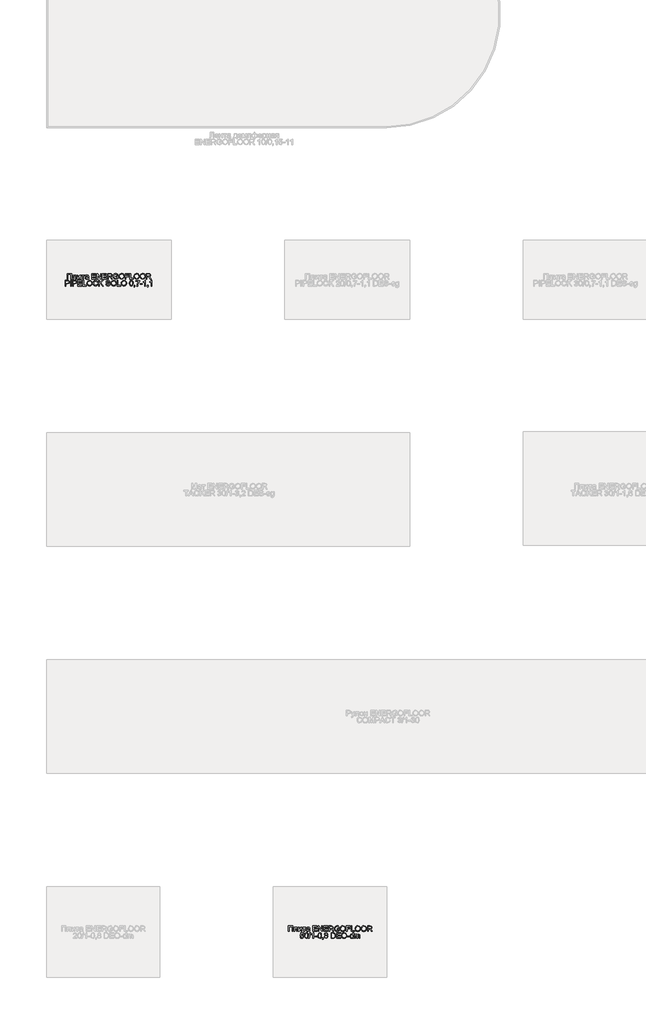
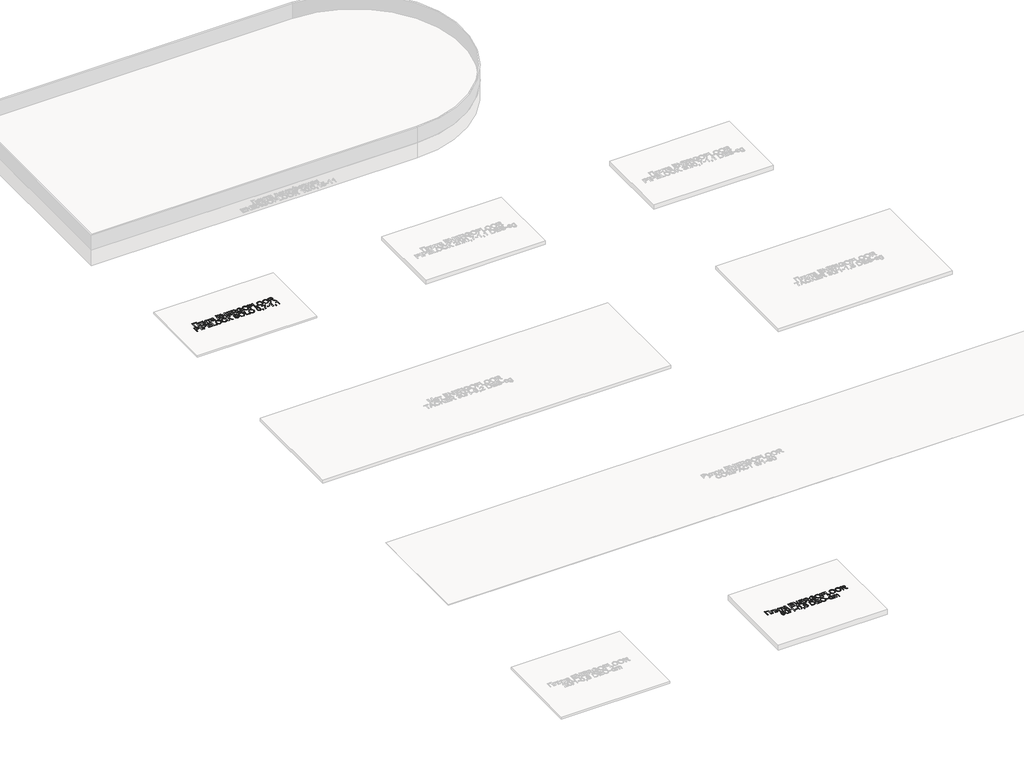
# One storey, part 2 of 7: 2 proxies.
"""IFC4 building model written with IfcOpenShell, lengths in millimetres."""

from ifc_helpers import new_model, si_unit, origin, origin_with_axes, place, context, project, spatial, polyline, outline, extrude, element, save

model = new_model("IFC4")

# Units and contexts
model_context = context("Model", 3, world=origin())
ifc_project = project(units=[si_unit("LENGTHUNIT", "METRE", prefix="MILLI")], contexts=[model_context])

# Site, building, storey
site = spatial("IfcSite", under=ifc_project)
building = spatial("IfcBuilding", under=site)
storey = spatial("IfcBuildingStorey", under=building, Name="Уровень 1", Elevation=0.0)

# Proxies
placement = place(None, origin())
element("IfcBuildingElementProxy", 1, Name="Текст модели ROLS ISOMARKET", ObjectType="Текст модели ROLS ISOMARKET", at=placement, inside=storey, context=model_context, shape_type="SweptSolid", body=[
    extrude(outline(polyline([(-16933.1193871, 11506.776011), (-16894.6578487, 11506.776011), (-16894.6578487, 11457.5452418), (-16900.8116948, 11457.5452418), (-16900.8116948, 11500.6221648), (-16926.965541, 11500.6221648), (-16926.965541, 11457.5452418), (-16933.1193871, 11457.5452418), (-16933.1193871, 11506.776011)])), origin_with_axes(), (0.0, 0.0, 1.0), 2.0),
    extrude(outline(polyline([(-16881.5809256, 11493.6990879), (-16853.8886179, 11493.6990879), (-16853.8886179, 11457.5812994), (-16860.0424641, 11457.5812994), (-16860.0424641, 11487.5452418), (-16875.4270794, 11487.5452418), (-16875.4270794, 11470.2976456), (-16875.8417429, 11462.3409148), (-16878.1193871, 11458.9815398), (-16883.5040025, 11457.5452418), (-16888.5040025, 11457.8577418), (-16888.5040025, 11463.6990879), (-16885.7515987, 11463.6990879), (-16882.9691468, 11464.0776937), (-16881.8573679, 11465.2796168), (-16881.5809256, 11470.6462033), (-16881.5809256, 11493.6990879)])), origin_with_axes(), (0.0, 0.0, 1.0), 2.0),
    extrude(outline(polyline([(-16844.6578487, 11493.6990879), (-16838.5040025, 11493.6990879), (-16838.5040025, 11466.1269725), (-16823.3838102, 11493.6990879), (-16815.4270794, 11493.6990879), (-16815.4270794, 11457.5452418), (-16821.5809256, 11457.5452418), (-16821.5809256, 11484.9490879), (-16836.6049641, 11457.5452418), (-16844.6578487, 11457.5452418), (-16844.6578487, 11493.6990879)])), origin_with_axes(), (0.0, 0.0, 1.0), 2.0),
    extrude(outline(polyline([(-16809.2732333, 11493.6990879), (-16780.0424641, 11493.6990879), (-16780.0424641, 11487.5452418), (-16791.5809256, 11487.5452418), (-16791.5809256, 11457.5452418), (-16797.7347718, 11457.5452418), (-16797.7347718, 11487.5452418), (-16809.2732333, 11487.5452418), (-16809.2732333, 11493.6990879)])), origin_with_axes(), (0.0, 0.0, 1.0), 2.0),
    extrude(outline(polyline([(-16751.5809256, 11462.1606264), (-16757.5484737, 11457.9899533), (-16764.1410218, 11456.776011), (-16773.0773198, 11459.6966841), (-16776.1963102, 11467.1606264), (-16775.0184256, 11472.0284148), (-16771.9234737, 11475.5620687), (-16767.6145794, 11477.5812994), (-16762.2900602, 11478.5067802), (-16751.6169833, 11480.6221648), (-16753.2756371, 11486.5356264), (-16760.0785218, 11488.3144725), (-16766.3044833, 11487.1305783), (-16769.2732333, 11482.9298571), (-16775.4270794, 11483.6990879), (-16772.7648198, 11489.7087033), (-16767.4042429, 11493.2303379), (-16759.2852525, 11494.4683187), (-16751.8273198, 11493.3745687), (-16747.6145794, 11490.6281744), (-16745.7275602, 11486.4514918), (-16745.4270794, 11481.0668764), (-16745.4270794, 11473.4106264), (-16745.1145794, 11462.7195206), (-16743.8886179, 11457.5452418), (-16750.0424641, 11457.5452418), (-16751.5809256, 11462.1606264)]), holes=[polyline([(-16751.5809256, 11474.4683187), (-16761.5088102, 11472.5812994), (-16766.8032814, 11471.5837033), (-16769.2011179, 11469.9611071), (-16770.0424641, 11467.5933187), (-16768.2095314, 11464.2639918), (-16762.8309256, 11462.9298571), (-16756.6049641, 11464.4022129), (-16752.590541, 11467.9659148), (-16751.6169833, 11472.7255302), (-16751.5809256, 11474.4683187)])]), origin_with_axes(), (0.0, 0.0, 1.0), 2.0),
    extrude(outline(polyline([(-16716.965541, 11457.5452418), (-16716.965541, 11506.776011), (-16681.5809256, 11506.776011), (-16681.5809256, 11500.6221648), (-16710.8116948, 11500.6221648), (-16710.8116948, 11486.0067802), (-16683.1193871, 11486.0067802), (-16683.1193871, 11479.8529341), (-16710.8116948, 11479.8529341), (-16710.8116948, 11463.6990879), (-16680.8116948, 11463.6990879), (-16680.8116948, 11457.5452418), (-16716.965541, 11457.5452418)])), origin_with_axes(), (0.0, 0.0, 1.0), 2.0),
    extrude(outline(polyline([(-16671.5809256, 11457.5452418), (-16671.5809256, 11506.776011), (-16664.9943871, 11506.776011), (-16639.2732333, 11467.7736071), (-16639.2732333, 11506.776011), (-16633.1193871, 11506.776011), (-16633.1193871, 11457.5452418), (-16639.7059256, 11457.5452418), (-16665.4270794, 11496.5596648), (-16665.4270794, 11457.5452418), (-16671.5809256, 11457.5452418)])), origin_with_axes(), (0.0, 0.0, 1.0), 2.0),
    extrude(outline(polyline([(-16622.3501564, 11457.5452418), (-16622.3501564, 11506.776011), (-16586.965541, 11506.776011), (-16586.965541, 11500.6221648), (-16616.1963102, 11500.6221648), (-16616.1963102, 11486.0067802), (-16588.5040025, 11486.0067802), (-16588.5040025, 11479.8529341), (-16616.1963102, 11479.8529341), (-16616.1963102, 11463.6990879), (-16586.1963102, 11463.6990879), (-16586.1963102, 11457.5452418), (-16622.3501564, 11457.5452418)])), origin_with_axes(), (0.0, 0.0, 1.0), 2.0),
    extrude(outline(polyline([(-16576.965541, 11457.5452418), (-16576.965541, 11506.776011), (-16555.7515987, 11506.776011), (-16545.9018391, 11505.447886), (-16540.5172237, 11500.7483668), (-16538.5040025, 11493.3024533), (-16541.8393391, 11484.432261), (-16552.1458294, 11479.8529341), (-16548.6482333, 11477.2207225), (-16543.6602525, 11470.8865879), (-16535.4511179, 11457.5452418), (-16542.6025602, 11457.5452418), (-16549.0088102, 11467.7495687), (-16553.6362141, 11474.5043764), (-16556.887416, 11477.6954821), (-16559.8140987, 11478.8673571), (-16563.3838102, 11479.0837033), (-16570.8116948, 11479.0837033), (-16570.8116948, 11457.5452418), (-16576.965541, 11457.5452418)]), holes=[polyline([(-16570.8116948, 11485.2375494), (-16557.0376564, 11485.2375494), (-16550.012416, 11486.1089437), (-16546.0220314, 11488.8974052), (-16544.6578487, 11493.0740879), (-16547.2600121, 11498.494761), (-16555.4871756, 11500.6221648), (-16570.8116948, 11500.6221648), (-16570.8116948, 11485.2375494)])]), origin_with_axes(), (0.0, 0.0, 1.0), 2.0),
    extrude(outline(polyline([(-16504.6578487, 11476.776011), (-16504.6578487, 11482.9298571), (-16484.6578487, 11482.9298571), (-16484.6578487, 11464.5284148), (-16494.5316468, 11458.7231264), (-16504.9703487, 11456.776011), (-16518.1133775, 11459.8709629), (-16527.0316468, 11468.8312994), (-16530.0424641, 11481.9202418), (-16527.043666, 11495.3036552), (-16518.4198679, 11504.5284148), (-16505.4631371, 11507.5452418), (-16495.8357333, 11505.7964437), (-16489.0869352, 11500.9286552), (-16485.3669833, 11492.7856264), (-16491.0400602, 11491.1870687), (-16493.8465506, 11496.8781744), (-16498.6422237, 11500.1594244), (-16505.559291, 11501.3913956), (-16513.4378968, 11500.0632706), (-16518.7984737, 11496.5776937), (-16521.965541, 11491.8361071), (-16523.8886179, 11482.1726456), (-16521.574916, 11471.4454821), (-16514.8441468, 11465.0272129), (-16505.4631371, 11462.9298571), (-16497.043666, 11464.510386), (-16490.8116948, 11467.8817802), (-16490.8116948, 11476.776011), (-16504.6578487, 11476.776011)])), origin_with_axes(), (0.0, 0.0, 1.0), 2.0),
    extrude(outline(polyline([(-16476.965541, 11481.5115879), (-16475.324916, 11492.3980062), (-16470.403041, 11500.6341841), (-16462.8880169, 11505.8174773), (-16453.4679448, 11507.5452418), (-16441.2203487, 11504.3000494), (-16432.903041, 11495.2495687), (-16430.0424641, 11482.0764918), (-16433.0532814, 11468.7231264), (-16441.5869352, 11459.8048571), (-16453.5040025, 11456.776011), (-16465.8838102, 11460.1233668), (-16474.153041, 11469.2579821), (-16476.965541, 11481.5115879)]), holes=[polyline([(-16470.8116948, 11481.4514918), (-16465.8898198, 11467.8817802), (-16453.5400602, 11462.9298571), (-16441.0821275, 11467.9298571), (-16436.1963102, 11482.1245687), (-16438.2876564, 11492.2808187), (-16444.3994352, 11499.0055783), (-16453.4318871, 11501.3913956), (-16465.6794833, 11496.7940398), (-16469.5286419, 11490.6597249), (-16470.8116948, 11481.4514918)])]), origin_with_axes(), (0.0, 0.0, 1.0), 2.0),
    extrude(outline(polyline([(-16421.5809256, 11457.5452418), (-16421.5809256, 11506.776011), (-16388.5040025, 11506.776011), (-16388.5040025, 11500.6221648), (-16415.4270794, 11500.6221648), (-16415.4270794, 11486.0067802), (-16392.3501564, 11486.0067802), (-16392.3501564, 11479.8529341), (-16415.4270794, 11479.8529341), (-16415.4270794, 11457.5452418), (-16421.5809256, 11457.5452418)])), origin_with_axes(), (0.0, 0.0, 1.0), 2.0),
    extrude(outline(polyline([(-16380.0424641, 11457.5452418), (-16380.0424641, 11506.776011), (-16373.8886179, 11506.776011), (-16373.8886179, 11463.6990879), (-16349.2732333, 11463.6990879), (-16349.2732333, 11457.5452418), (-16380.0424641, 11457.5452418)])), origin_with_axes(), (0.0, 0.0, 1.0), 2.0),
    extrude(outline(polyline([(-16344.6578487, 11481.5115879), (-16343.0172237, 11492.3980062), (-16338.0953487, 11500.6341841), (-16330.5803246, 11505.8174773), (-16321.1602525, 11507.5452418), (-16308.9126564, 11504.3000494), (-16300.5953487, 11495.2495687), (-16297.7347718, 11482.0764918), (-16300.7455891, 11468.7231264), (-16309.2792429, 11459.8048571), (-16321.1963102, 11456.776011), (-16333.5761179, 11460.1233668), (-16341.8453487, 11469.2579821), (-16344.6578487, 11481.5115879)]), holes=[polyline([(-16338.5040025, 11481.4514918), (-16333.5821275, 11467.8817802), (-16321.2323679, 11462.9298571), (-16308.7744352, 11467.9298571), (-16303.8886179, 11482.1245687), (-16305.9799641, 11492.2808187), (-16312.0917429, 11499.0055783), (-16321.1241948, 11501.3913956), (-16333.371791, 11496.7940398), (-16337.2209496, 11490.6597249), (-16338.5040025, 11481.4514918)])]), origin_with_axes(), (0.0, 0.0, 1.0), 2.0),
    extrude(outline(polyline([(-16291.5809256, 11481.5115879), (-16289.9403006, 11492.3980062), (-16285.0184256, 11500.6341841), (-16277.5034016, 11505.8174773), (-16268.0833294, 11507.5452418), (-16255.8357333, 11504.3000494), (-16247.5184256, 11495.2495687), (-16244.6578487, 11482.0764918), (-16247.668666, 11468.7231264), (-16256.2023198, 11459.8048571), (-16268.1193871, 11456.776011), (-16280.4991948, 11460.1233668), (-16288.7684256, 11469.2579821), (-16291.5809256, 11481.5115879)]), holes=[polyline([(-16285.4270794, 11481.4514918), (-16280.5052044, 11467.8817802), (-16268.1554448, 11462.9298571), (-16255.6975121, 11467.9298571), (-16250.8116948, 11482.1245687), (-16252.903041, 11492.2808187), (-16259.0148198, 11499.0055783), (-16268.0472718, 11501.3913956), (-16280.2948679, 11496.7940398), (-16284.1440266, 11490.6597249), (-16285.4270794, 11481.4514918)])]), origin_with_axes(), (0.0, 0.0, 1.0), 2.0),
    extrude(outline(polyline([(-16236.1963102, 11457.5452418), (-16236.1963102, 11506.776011), (-16214.9823679, 11506.776011), (-16205.1326083, 11505.447886), (-16199.7479929, 11500.7483668), (-16197.7347718, 11493.3024533), (-16201.0701083, 11484.432261), (-16211.3765987, 11479.8529341), (-16207.8790025, 11477.2207225), (-16202.8910218, 11470.8865879), (-16194.6818871, 11457.5452418), (-16201.8333294, 11457.5452418), (-16208.2395794, 11467.7495687), (-16212.8669833, 11474.5043764), (-16216.1181852, 11477.6954821), (-16219.0448679, 11478.8673571), (-16222.6145794, 11479.0837033), (-16230.0424641, 11479.0837033), (-16230.0424641, 11457.5452418), (-16236.1963102, 11457.5452418)]), holes=[polyline([(-16230.0424641, 11485.2375494), (-16216.2684256, 11485.2375494), (-16209.2431852, 11486.1089437), (-16205.2528006, 11488.8974052), (-16203.8886179, 11493.0740879), (-16206.4907814, 11498.494761), (-16214.7179448, 11500.6221648), (-16230.0424641, 11500.6221648), (-16230.0424641, 11485.2375494)])]), origin_with_axes(), (0.0, 0.0, 1.0), 2.0),
    extrude(outline(polyline([(-16950.4270794, 11396.776011), (-16950.4270794, 11446.0067802), (-16932.1818871, 11446.0067802), (-16924.8261179, 11445.5380302), (-16918.8465506, 11443.2363475), (-16914.9703487, 11438.4767321), (-16913.5040025, 11431.7639918), (-16917.4643391, 11421.1269725), (-16931.7612141, 11416.776011), (-16944.2732333, 11416.776011), (-16944.2732333, 11396.776011), (-16950.4270794, 11396.776011)]), holes=[polyline([(-16944.2732333, 11422.9298571), (-16931.4006371, 11422.9298571), (-16922.3381371, 11425.1894725), (-16919.6578487, 11431.5476456), (-16921.2383775, 11436.6437994), (-16925.3910218, 11439.432261), (-16931.5448679, 11439.8529341), (-16944.2732333, 11439.8529341), (-16944.2732333, 11422.9298571)])]), origin_with_axes(), (0.0, 0.0, 1.0), 2.0),
    extrude(outline(polyline([(-16904.2732333, 11396.776011), (-16904.2732333, 11446.0067802), (-16898.1193871, 11446.0067802), (-16898.1193871, 11396.776011), (-16904.2732333, 11396.776011)])), origin_with_axes(), (0.0, 0.0, 1.0), 2.0),
    extrude(outline(polyline([(-16885.8116948, 11396.776011), (-16885.8116948, 11446.0067802), (-16867.5665025, 11446.0067802), (-16860.2107333, 11445.5380302), (-16854.231166, 11443.2363475), (-16850.3549641, 11438.4767321), (-16848.8886179, 11431.7639918), (-16852.8489544, 11421.1269725), (-16867.1458294, 11416.776011), (-16879.6578487, 11416.776011), (-16879.6578487, 11396.776011), (-16885.8116948, 11396.776011)]), holes=[polyline([(-16879.6578487, 11422.9298571), (-16866.7852525, 11422.9298571), (-16857.7227525, 11425.1894725), (-16855.0424641, 11431.5476456), (-16856.6229929, 11436.6437994), (-16860.7756371, 11439.432261), (-16866.9294833, 11439.8529341), (-16879.6578487, 11439.8529341), (-16879.6578487, 11422.9298571)])]), origin_with_axes(), (0.0, 0.0, 1.0), 2.0),
    extrude(outline(polyline([(-16840.4270794, 11396.776011), (-16840.4270794, 11446.0067802), (-16805.0424641, 11446.0067802), (-16805.0424641, 11439.8529341), (-16834.2732333, 11439.8529341), (-16834.2732333, 11425.2375494), (-16806.5809256, 11425.2375494), (-16806.5809256, 11419.0837033), (-16834.2732333, 11419.0837033), (-16834.2732333, 11402.9298571), (-16804.2732333, 11402.9298571), (-16804.2732333, 11396.776011), (-16840.4270794, 11396.776011)])), origin_with_axes(), (0.0, 0.0, 1.0), 2.0),
    extrude(outline(polyline([(-16795.0424641, 11396.776011), (-16795.0424641, 11446.0067802), (-16788.8886179, 11446.0067802), (-16788.8886179, 11402.9298571), (-16764.2732333, 11402.9298571), (-16764.2732333, 11396.776011), (-16795.0424641, 11396.776011)])), origin_with_axes(), (0.0, 0.0, 1.0), 2.0),
    extrude(outline(polyline([(-16759.6578487, 11420.7423571), (-16758.0172237, 11431.6287754), (-16753.0953487, 11439.8649533), (-16745.5803246, 11445.0482466), (-16736.1602525, 11446.776011), (-16723.9126564, 11443.5308187), (-16715.5953487, 11434.4803379), (-16712.7347718, 11421.307261), (-16715.7455891, 11407.9538956), (-16724.2792429, 11399.0356264), (-16736.1963102, 11396.0067802), (-16748.5761179, 11399.354136), (-16756.8453487, 11408.4887514), (-16759.6578487, 11420.7423571)]), holes=[polyline([(-16753.5040025, 11420.682261), (-16748.5821275, 11407.1125494), (-16736.2323679, 11402.1606264), (-16723.7744352, 11407.1606264), (-16718.8886179, 11421.3553379), (-16720.9799641, 11431.5115879), (-16727.0917429, 11438.2363475), (-16736.1241948, 11440.6221648), (-16748.371791, 11436.0248091), (-16752.2209496, 11429.8904942), (-16753.5040025, 11420.682261)])]), origin_with_axes(), (0.0, 0.0, 1.0), 2.0),
    extrude(outline(polyline([(-16669.6578487, 11414.276011), (-16663.5040025, 11412.6894725), (-16670.7996756, 11400.2796168), (-16683.684291, 11396.0067802), (-16696.4907814, 11399.2399533), (-16704.0028006, 11408.6029341), (-16706.5809256, 11421.7639918), (-16703.6662621, 11435.1413956), (-16695.3790025, 11443.8132706), (-16683.5520794, 11446.776011), (-16671.2263583, 11442.9418764), (-16664.2732333, 11432.1486071), (-16670.4270794, 11430.682261), (-16675.4751564, 11438.2483668), (-16683.7924641, 11440.6221648), (-16693.4198679, 11437.9899533), (-16698.8585698, 11430.9226456), (-16700.4270794, 11421.776011), (-16698.5701083, 11411.1750494), (-16692.7888583, 11404.4022129), (-16684.2972718, 11402.1606264), (-16674.8802044, 11405.213511), (-16669.6578487, 11414.276011)])), origin_with_axes(), (0.0, 0.0, 1.0), 2.0),
    extrude(outline(polyline([(-16655.0424641, 11396.776011), (-16655.0424641, 11446.0067802), (-16648.8886179, 11446.0067802), (-16648.8886179, 11421.9082225), (-16623.6482333, 11446.0067802), (-16615.0424641, 11446.0067802), (-16636.2323679, 11425.7663956), (-16614.2732333, 11396.776011), (-16621.7972718, 11396.776011), (-16640.5953487, 11421.6077418), (-16648.8886179, 11413.6990879), (-16648.8886179, 11396.776011), (-16655.0424641, 11396.776011)])), origin_with_axes(), (0.0, 0.0, 1.0), 2.0),
    extrude(outline(polyline([(-16592.7347718, 11413.6990879), (-16586.5809256, 11413.6990879), (-16584.5977525, 11407.5392321), (-16579.7540025, 11403.6450014), (-16572.3741948, 11402.1606264), (-16565.9439064, 11403.2844244), (-16561.7912621, 11406.3733668), (-16560.4270794, 11410.5019725), (-16561.4487141, 11414.3421168), (-16565.6314064, 11417.1365879), (-16574.5917429, 11419.4863475), (-16584.2371756, 11422.5212033), (-16589.4715506, 11427.1005302), (-16591.1963102, 11433.2183187), (-16589.0628968, 11440.1834629), (-16582.8309256, 11445.0993283), (-16573.7083294, 11446.776011), (-16563.9727525, 11445.0212033), (-16557.4823679, 11439.8649533), (-16555.0424641, 11432.1606264), (-16561.1963102, 11432.1606264), (-16564.6818871, 11438.4827418), (-16573.4679448, 11440.6221648), (-16582.278041, 11438.5067802), (-16585.0424641, 11433.3986071), (-16583.0833294, 11429.1317802), (-16573.0352525, 11425.6942802), (-16562.1458294, 11422.6053379), (-16556.1903006, 11417.6173571), (-16554.2732333, 11410.6582225), (-16556.4787621, 11403.2964437), (-16562.824916, 11397.9238475), (-16572.1338102, 11396.0067802), (-16583.1253968, 11398.0740879), (-16590.0785218, 11404.3000494), (-16592.7347718, 11413.6990879)])), origin_with_axes(), (0.0, 0.0, 1.0), 2.0),
    extrude(outline(polyline([(-16547.3501564, 11420.7423571), (-16545.7095314, 11431.6287754), (-16540.7876564, 11439.8649533), (-16533.2726323, 11445.0482466), (-16523.8525602, 11446.776011), (-16511.6049641, 11443.5308187), (-16503.2876564, 11434.4803379), (-16500.4270794, 11421.307261), (-16503.4378968, 11407.9538956), (-16511.9715506, 11399.0356264), (-16523.8886179, 11396.0067802), (-16536.2684256, 11399.354136), (-16544.5376564, 11408.4887514), (-16547.3501564, 11420.7423571)]), holes=[polyline([(-16541.1963102, 11420.682261), (-16536.2744352, 11407.1125494), (-16523.9246756, 11402.1606264), (-16511.4667429, 11407.1606264), (-16506.5809256, 11421.3553379), (-16508.6722718, 11431.5115879), (-16514.7840506, 11438.2363475), (-16523.8165025, 11440.6221648), (-16536.0640987, 11436.0248091), (-16539.9132573, 11429.8904942), (-16541.1963102, 11420.682261)])]), origin_with_axes(), (0.0, 0.0, 1.0), 2.0),
    extrude(outline(polyline([(-16491.965541, 11396.776011), (-16491.965541, 11446.0067802), (-16485.8116948, 11446.0067802), (-16485.8116948, 11402.9298571), (-16461.1963102, 11402.9298571), (-16461.1963102, 11396.776011), (-16491.965541, 11396.776011)])), origin_with_axes(), (0.0, 0.0, 1.0), 2.0),
    extrude(outline(polyline([(-16456.5809256, 11420.7423571), (-16454.9403006, 11431.6287754), (-16450.0184256, 11439.8649533), (-16442.5034016, 11445.0482466), (-16433.0833294, 11446.776011), (-16420.8357333, 11443.5308187), (-16412.5184256, 11434.4803379), (-16409.6578487, 11421.307261), (-16412.668666, 11407.9538956), (-16421.2023198, 11399.0356264), (-16433.1193871, 11396.0067802), (-16445.4991948, 11399.354136), (-16453.7684256, 11408.4887514), (-16456.5809256, 11420.7423571)]), holes=[polyline([(-16450.4270794, 11420.682261), (-16445.5052044, 11407.1125494), (-16433.1554448, 11402.1606264), (-16420.6975121, 11407.1606264), (-16415.8116948, 11421.3553379), (-16417.903041, 11431.5115879), (-16424.0148198, 11438.2363475), (-16433.0472718, 11440.6221648), (-16445.2948679, 11436.0248091), (-16449.1440266, 11429.8904942), (-16450.4270794, 11420.682261)])]), origin_with_axes(), (0.0, 0.0, 1.0), 2.0),
    extrude(outline(polyline([(-16384.2732333, 11420.994761), (-16382.4643391, 11435.1594244), (-16377.0917429, 11443.3264918), (-16368.1193871, 11446.0067802), (-16360.9318871, 11444.4202418), (-16355.9679448, 11439.8469244), (-16353.0833294, 11432.5632706), (-16351.965541, 11420.994761), (-16353.7564064, 11406.8901937), (-16359.1109737, 11398.7050975), (-16368.1193871, 11396.0067802), (-16379.3693871, 11400.6942802), (-16383.0472718, 11409.0206023), (-16384.2732333, 11420.994761)]), holes=[polyline([(-16378.1193871, 11421.0067802), (-16375.2347718, 11405.7243283), (-16368.1193871, 11402.1606264), (-16361.0040025, 11405.7363475), (-16358.1193871, 11421.0067802), (-16360.9078487, 11436.1149533), (-16368.1915025, 11439.8529341), (-16375.1386179, 11436.5596648), (-16378.1193871, 11421.0067802)])]), origin_with_axes(), (0.0, 0.0, 1.0), 2.0),
    extrude(outline(polyline([(-16343.5040025, 11396.776011), (-16343.5040025, 11402.9298571), (-16337.3501564, 11402.9298571), (-16337.3501564, 11396.776011), (-16338.4559256, 11390.4839437), (-16341.965541, 11386.776011), (-16343.5040025, 11389.0837033), (-16341.2443871, 11391.7399533), (-16340.4390987, 11396.776011), (-16343.5040025, 11396.776011)])), origin_with_axes(), (0.0, 0.0, 1.0), 2.0),
    extrude(outline(polyline([(-16327.3501564, 11439.0837033), (-16327.3501564, 11445.2375494), (-16295.0424641, 11445.2375494), (-16295.0424641, 11440.2615879), (-16304.2071275, 11427.0224052), (-16311.2203487, 11410.1534148), (-16313.5040025, 11396.776011), (-16319.6578487, 11396.776011), (-16317.2119352, 11410.6582225), (-16310.4991948, 11426.3493283), (-16301.1963102, 11439.0837033), (-16327.3501564, 11439.0837033)])), origin_with_axes(), (0.0, 0.0, 1.0), 2.0),
    extrude(outline(polyline([(-16291.1963102, 11411.3913956), (-16291.1963102, 11417.5452418), (-16271.965541, 11417.5452418), (-16271.965541, 11411.3913956), (-16291.1963102, 11411.3913956)])), origin_with_axes(), (0.0, 0.0, 1.0), 2.0),
    extrude(outline(polyline([(-16243.5040025, 11396.776011), (-16249.6578487, 11396.776011), (-16249.6578487, 11435.1413956), (-16255.4871756, 11430.9887514), (-16261.965541, 11427.8817802), (-16261.965541, 11433.6990879), (-16252.9451083, 11439.4562994), (-16247.4703487, 11446.0067802), (-16243.5040025, 11446.0067802), (-16243.5040025, 11396.776011)])), origin_with_axes(), (0.0, 0.0, 1.0), 2.0),
    extrude(outline(polyline([(-16225.8116948, 11396.776011), (-16225.8116948, 11402.9298571), (-16219.6578487, 11402.9298571), (-16219.6578487, 11396.776011), (-16220.7636179, 11390.4839437), (-16224.2732333, 11386.776011), (-16225.8116948, 11389.0837033), (-16223.5520794, 11391.7399533), (-16222.746791, 11396.776011), (-16225.8116948, 11396.776011)])), origin_with_axes(), (0.0, 0.0, 1.0), 2.0),
    extrude(outline(polyline([(-16186.5809256, 11396.776011), (-16192.7347718, 11396.776011), (-16192.7347718, 11435.1413956), (-16198.5640987, 11430.9887514), (-16205.0424641, 11427.8817802), (-16205.0424641, 11433.6990879), (-16196.0220314, 11439.4562994), (-16190.5472718, 11446.0067802), (-16186.5809256, 11446.0067802), (-16186.5809256, 11396.776011)])), origin_with_axes(), (0.0, 0.0, 1.0), 2.0),
])
element("IfcBuildingElementProxy", 2, Name="Текст модели ROLS ISOMARKET", ObjectType="Текст модели ROLS ISOMARKET", at=placement, inside=storey, context=model_context, shape_type="SweptSolid", body=[
    extrude(outline(polyline([(-14983.1193871, 5756.776011), (-14944.6578487, 5756.776011), (-14944.6578487, 5707.5452418), (-14950.8116948, 5707.5452418), (-14950.8116948, 5750.6221648), (-14976.965541, 5750.6221648), (-14976.965541, 5707.5452418), (-14983.1193871, 5707.5452418), (-14983.1193871, 5756.776011)])), origin_with_axes(), (0.0, 0.0, 1.0), 2.0),
    extrude(outline(polyline([(-14931.5809256, 5743.6990879), (-14903.8886179, 5743.6990879), (-14903.8886179, 5707.5812994), (-14910.0424641, 5707.5812994), (-14910.0424641, 5737.5452418), (-14925.4270794, 5737.5452418), (-14925.4270794, 5720.2976456), (-14925.8417429, 5712.3409148), (-14928.1193871, 5708.9815398), (-14933.5040025, 5707.5452418), (-14938.5040025, 5707.8577418), (-14938.5040025, 5713.6990879), (-14935.7515987, 5713.6990879), (-14932.9691468, 5714.0776937), (-14931.8573679, 5715.2796168), (-14931.5809256, 5720.6462033), (-14931.5809256, 5743.6990879)])), origin_with_axes(), (0.0, 0.0, 1.0), 2.0),
    extrude(outline(polyline([(-14894.6578487, 5743.6990879), (-14888.5040025, 5743.6990879), (-14888.5040025, 5716.1269725), (-14873.3838102, 5743.6990879), (-14865.4270794, 5743.6990879), (-14865.4270794, 5707.5452418), (-14871.5809256, 5707.5452418), (-14871.5809256, 5734.9490879), (-14886.6049641, 5707.5452418), (-14894.6578487, 5707.5452418), (-14894.6578487, 5743.6990879)])), origin_with_axes(), (0.0, 0.0, 1.0), 2.0),
    extrude(outline(polyline([(-14859.2732333, 5743.6990879), (-14830.0424641, 5743.6990879), (-14830.0424641, 5737.5452418), (-14841.5809256, 5737.5452418), (-14841.5809256, 5707.5452418), (-14847.7347718, 5707.5452418), (-14847.7347718, 5737.5452418), (-14859.2732333, 5737.5452418), (-14859.2732333, 5743.6990879)])), origin_with_axes(), (0.0, 0.0, 1.0), 2.0),
    extrude(outline(polyline([(-14801.5809256, 5712.1606264), (-14807.5484737, 5707.9899533), (-14814.1410218, 5706.776011), (-14823.0773198, 5709.6966841), (-14826.1963102, 5717.1606264), (-14825.0184256, 5722.0284148), (-14821.9234737, 5725.5620687), (-14817.6145794, 5727.5812994), (-14812.2900602, 5728.5067802), (-14801.6169833, 5730.6221648), (-14803.2756371, 5736.5356264), (-14810.0785218, 5738.3144725), (-14816.3044833, 5737.1305783), (-14819.2732333, 5732.9298571), (-14825.4270794, 5733.6990879), (-14822.7648198, 5739.7087033), (-14817.4042429, 5743.2303379), (-14809.2852525, 5744.4683187), (-14801.8273198, 5743.3745687), (-14797.6145794, 5740.6281744), (-14795.7275602, 5736.4514918), (-14795.4270794, 5731.0668764), (-14795.4270794, 5723.4106264), (-14795.1145794, 5712.7195206), (-14793.8886179, 5707.5452418), (-14800.0424641, 5707.5452418), (-14801.5809256, 5712.1606264)]), holes=[polyline([(-14801.5809256, 5724.4683187), (-14811.5088102, 5722.5812994), (-14816.8032814, 5721.5837033), (-14819.2011179, 5719.9611071), (-14820.0424641, 5717.5933187), (-14818.2095314, 5714.2639918), (-14812.8309256, 5712.9298571), (-14806.6049641, 5714.4022129), (-14802.590541, 5717.9659148), (-14801.6169833, 5722.7255302), (-14801.5809256, 5724.4683187)])]), origin_with_axes(), (0.0, 0.0, 1.0), 2.0),
    extrude(outline(polyline([(-14766.965541, 5707.5452418), (-14766.965541, 5756.776011), (-14731.5809256, 5756.776011), (-14731.5809256, 5750.6221648), (-14760.8116948, 5750.6221648), (-14760.8116948, 5736.0067802), (-14733.1193871, 5736.0067802), (-14733.1193871, 5729.8529341), (-14760.8116948, 5729.8529341), (-14760.8116948, 5713.6990879), (-14730.8116948, 5713.6990879), (-14730.8116948, 5707.5452418), (-14766.965541, 5707.5452418)])), origin_with_axes(), (0.0, 0.0, 1.0), 2.0),
    extrude(outline(polyline([(-14721.5809256, 5707.5452418), (-14721.5809256, 5756.776011), (-14714.9943871, 5756.776011), (-14689.2732333, 5717.7736071), (-14689.2732333, 5756.776011), (-14683.1193871, 5756.776011), (-14683.1193871, 5707.5452418), (-14689.7059256, 5707.5452418), (-14715.4270794, 5746.5596648), (-14715.4270794, 5707.5452418), (-14721.5809256, 5707.5452418)])), origin_with_axes(), (0.0, 0.0, 1.0), 2.0),
    extrude(outline(polyline([(-14672.3501564, 5707.5452418), (-14672.3501564, 5756.776011), (-14636.965541, 5756.776011), (-14636.965541, 5750.6221648), (-14666.1963102, 5750.6221648), (-14666.1963102, 5736.0067802), (-14638.5040025, 5736.0067802), (-14638.5040025, 5729.8529341), (-14666.1963102, 5729.8529341), (-14666.1963102, 5713.6990879), (-14636.1963102, 5713.6990879), (-14636.1963102, 5707.5452418), (-14672.3501564, 5707.5452418)])), origin_with_axes(), (0.0, 0.0, 1.0), 2.0),
    extrude(outline(polyline([(-14626.965541, 5707.5452418), (-14626.965541, 5756.776011), (-14605.7515987, 5756.776011), (-14595.9018391, 5755.447886), (-14590.5172237, 5750.7483668), (-14588.5040025, 5743.3024533), (-14591.8393391, 5734.432261), (-14602.1458294, 5729.8529341), (-14598.6482333, 5727.2207225), (-14593.6602525, 5720.8865879), (-14585.4511179, 5707.5452418), (-14592.6025602, 5707.5452418), (-14599.0088102, 5717.7495687), (-14603.6362141, 5724.5043764), (-14606.887416, 5727.6954821), (-14609.8140987, 5728.8673571), (-14613.3838102, 5729.0837033), (-14620.8116948, 5729.0837033), (-14620.8116948, 5707.5452418), (-14626.965541, 5707.5452418)]), holes=[polyline([(-14620.8116948, 5735.2375494), (-14607.0376564, 5735.2375494), (-14600.012416, 5736.1089437), (-14596.0220314, 5738.8974052), (-14594.6578487, 5743.0740879), (-14597.2600121, 5748.494761), (-14605.4871756, 5750.6221648), (-14620.8116948, 5750.6221648), (-14620.8116948, 5735.2375494)])]), origin_with_axes(), (0.0, 0.0, 1.0), 2.0),
    extrude(outline(polyline([(-14554.6578487, 5726.776011), (-14554.6578487, 5732.9298571), (-14534.6578487, 5732.9298571), (-14534.6578487, 5714.5284148), (-14544.5316468, 5708.7231264), (-14554.9703487, 5706.776011), (-14568.1133775, 5709.8709629), (-14577.0316468, 5718.8312994), (-14580.0424641, 5731.9202418), (-14577.043666, 5745.3036552), (-14568.4198679, 5754.5284148), (-14555.4631371, 5757.5452418), (-14545.8357333, 5755.7964437), (-14539.0869352, 5750.9286552), (-14535.3669833, 5742.7856264), (-14541.0400602, 5741.1870687), (-14543.8465506, 5746.8781744), (-14548.6422237, 5750.1594244), (-14555.559291, 5751.3913956), (-14563.4378968, 5750.0632706), (-14568.7984737, 5746.5776937), (-14571.965541, 5741.8361071), (-14573.8886179, 5732.1726456), (-14571.574916, 5721.4454821), (-14564.8441468, 5715.0272129), (-14555.4631371, 5712.9298571), (-14547.043666, 5714.510386), (-14540.8116948, 5717.8817802), (-14540.8116948, 5726.776011), (-14554.6578487, 5726.776011)])), origin_with_axes(), (0.0, 0.0, 1.0), 2.0),
    extrude(outline(polyline([(-14526.965541, 5731.5115879), (-14525.324916, 5742.3980062), (-14520.403041, 5750.6341841), (-14512.8880169, 5755.8174773), (-14503.4679448, 5757.5452418), (-14491.2203487, 5754.3000494), (-14482.903041, 5745.2495687), (-14480.0424641, 5732.0764918), (-14483.0532814, 5718.7231264), (-14491.5869352, 5709.8048571), (-14503.5040025, 5706.776011), (-14515.8838102, 5710.1233668), (-14524.153041, 5719.2579821), (-14526.965541, 5731.5115879)]), holes=[polyline([(-14520.8116948, 5731.4514918), (-14515.8898198, 5717.8817802), (-14503.5400602, 5712.9298571), (-14491.0821275, 5717.9298571), (-14486.1963102, 5732.1245687), (-14488.2876564, 5742.2808187), (-14494.3994352, 5749.0055783), (-14503.4318871, 5751.3913956), (-14515.6794833, 5746.7940398), (-14519.5286419, 5740.6597249), (-14520.8116948, 5731.4514918)])]), origin_with_axes(), (0.0, 0.0, 1.0), 2.0),
    extrude(outline(polyline([(-14471.5809256, 5707.5452418), (-14471.5809256, 5756.776011), (-14438.5040025, 5756.776011), (-14438.5040025, 5750.6221648), (-14465.4270794, 5750.6221648), (-14465.4270794, 5736.0067802), (-14442.3501564, 5736.0067802), (-14442.3501564, 5729.8529341), (-14465.4270794, 5729.8529341), (-14465.4270794, 5707.5452418), (-14471.5809256, 5707.5452418)])), origin_with_axes(), (0.0, 0.0, 1.0), 2.0),
    extrude(outline(polyline([(-14430.0424641, 5707.5452418), (-14430.0424641, 5756.776011), (-14423.8886179, 5756.776011), (-14423.8886179, 5713.6990879), (-14399.2732333, 5713.6990879), (-14399.2732333, 5707.5452418), (-14430.0424641, 5707.5452418)])), origin_with_axes(), (0.0, 0.0, 1.0), 2.0),
    extrude(outline(polyline([(-14394.6578487, 5731.5115879), (-14393.0172237, 5742.3980062), (-14388.0953487, 5750.6341841), (-14380.5803246, 5755.8174773), (-14371.1602525, 5757.5452418), (-14358.9126564, 5754.3000494), (-14350.5953487, 5745.2495687), (-14347.7347718, 5732.0764918), (-14350.7455891, 5718.7231264), (-14359.2792429, 5709.8048571), (-14371.1963102, 5706.776011), (-14383.5761179, 5710.1233668), (-14391.8453487, 5719.2579821), (-14394.6578487, 5731.5115879)]), holes=[polyline([(-14388.5040025, 5731.4514918), (-14383.5821275, 5717.8817802), (-14371.2323679, 5712.9298571), (-14358.7744352, 5717.9298571), (-14353.8886179, 5732.1245687), (-14355.9799641, 5742.2808187), (-14362.0917429, 5749.0055783), (-14371.1241948, 5751.3913956), (-14383.371791, 5746.7940398), (-14387.2209496, 5740.6597249), (-14388.5040025, 5731.4514918)])]), origin_with_axes(), (0.0, 0.0, 1.0), 2.0),
    extrude(outline(polyline([(-14341.5809256, 5731.5115879), (-14339.9403006, 5742.3980062), (-14335.0184256, 5750.6341841), (-14327.5034016, 5755.8174773), (-14318.0833294, 5757.5452418), (-14305.8357333, 5754.3000494), (-14297.5184256, 5745.2495687), (-14294.6578487, 5732.0764918), (-14297.668666, 5718.7231264), (-14306.2023198, 5709.8048571), (-14318.1193871, 5706.776011), (-14330.4991948, 5710.1233668), (-14338.7684256, 5719.2579821), (-14341.5809256, 5731.5115879)]), holes=[polyline([(-14335.4270794, 5731.4514918), (-14330.5052044, 5717.8817802), (-14318.1554448, 5712.9298571), (-14305.6975121, 5717.9298571), (-14300.8116948, 5732.1245687), (-14302.903041, 5742.2808187), (-14309.0148198, 5749.0055783), (-14318.0472718, 5751.3913956), (-14330.2948679, 5746.7940398), (-14334.1440266, 5740.6597249), (-14335.4270794, 5731.4514918)])]), origin_with_axes(), (0.0, 0.0, 1.0), 2.0),
    extrude(outline(polyline([(-14286.1963102, 5707.5452418), (-14286.1963102, 5756.776011), (-14264.9823679, 5756.776011), (-14255.1326083, 5755.447886), (-14249.7479929, 5750.7483668), (-14247.7347718, 5743.3024533), (-14251.0701083, 5734.432261), (-14261.3765987, 5729.8529341), (-14257.8790025, 5727.2207225), (-14252.8910218, 5720.8865879), (-14244.6818871, 5707.5452418), (-14251.8333294, 5707.5452418), (-14258.2395794, 5717.7495687), (-14262.8669833, 5724.5043764), (-14266.1181852, 5727.6954821), (-14269.0448679, 5728.8673571), (-14272.6145794, 5729.0837033), (-14280.0424641, 5729.0837033), (-14280.0424641, 5707.5452418), (-14286.1963102, 5707.5452418)]), holes=[polyline([(-14280.0424641, 5735.2375494), (-14266.2684256, 5735.2375494), (-14259.2431852, 5736.1089437), (-14255.2528006, 5738.8974052), (-14253.8886179, 5743.0740879), (-14256.4907814, 5748.494761), (-14264.7179448, 5750.6221648), (-14280.0424641, 5750.6221648), (-14280.0424641, 5735.2375494)])]), origin_with_axes(), (0.0, 0.0, 1.0), 2.0),
    extrude(outline(polyline([(-14879.6578487, 5659.8529341), (-14873.5040025, 5660.6221648), (-14870.403041, 5654.2820206), (-14863.9727525, 5652.1606264), (-14856.2564064, 5655.1113475), (-14853.5040025, 5662.9418764), (-14856.0821275, 5670.2495687), (-14863.8765987, 5672.9298571), (-14869.2792429, 5671.8601456), (-14872.7347718, 5669.0837033), (-14878.8886179, 5669.8529341), (-14873.5040025, 5695.2375494), (-14849.6578487, 5695.2375494), (-14849.6578487, 5689.0837033), (-14868.528041, 5689.0837033), (-14871.1602525, 5675.526011), (-14862.1578487, 5679.0837033), (-14851.6350121, 5674.6726456), (-14847.3501564, 5663.3264918), (-14851.2083294, 5651.9082225), (-14856.7491948, 5647.4821408), (-14863.996791, 5646.0067802), (-14874.856166, 5649.7988475), (-14879.6578487, 5659.8529341)])), origin_with_axes(), (0.0, 0.0, 1.0), 2.0),
    extrude(outline(polyline([(-14841.965541, 5670.994761), (-14840.1566468, 5685.1594244), (-14834.7840506, 5693.3264918), (-14825.8116948, 5696.0067802), (-14818.6241948, 5694.4202418), (-14813.6602525, 5689.8469244), (-14810.7756371, 5682.5632706), (-14809.6578487, 5670.994761), (-14811.4487141, 5656.8901937), (-14816.8032814, 5648.7050975), (-14825.8116948, 5646.0067802), (-14837.0616948, 5650.6942802), (-14840.7395794, 5659.0206023), (-14841.965541, 5670.994761)]), holes=[polyline([(-14835.8116948, 5671.0067802), (-14832.9270794, 5655.7243283), (-14825.8116948, 5652.1606264), (-14818.6963102, 5655.7363475), (-14815.8116948, 5671.0067802), (-14818.6001564, 5686.1149533), (-14825.8838102, 5689.8529341), (-14832.8309256, 5686.5596648), (-14835.8116948, 5671.0067802)])]), origin_with_axes(), (0.0, 0.0, 1.0), 2.0),
    extrude(outline(polyline([(-14807.3501564, 5646.776011), (-14793.5040025, 5696.0067802), (-14787.9511179, 5696.0067802), (-14801.7972718, 5646.776011), (-14807.3501564, 5646.776011)])), origin_with_axes(), (0.0, 0.0, 1.0), 2.0),
    extrude(outline(polyline([(-14761.965541, 5646.776011), (-14768.1193871, 5646.776011), (-14768.1193871, 5685.1413956), (-14773.9487141, 5680.9887514), (-14780.4270794, 5677.8817802), (-14780.4270794, 5683.6990879), (-14771.4066468, 5689.4562994), (-14765.9318871, 5696.0067802), (-14761.965541, 5696.0067802), (-14761.965541, 5646.776011)])), origin_with_axes(), (0.0, 0.0, 1.0), 2.0),
    extrude(outline(polyline([(-14748.8886179, 5661.3913956), (-14748.8886179, 5667.5452418), (-14729.6578487, 5667.5452418), (-14729.6578487, 5661.3913956), (-14748.8886179, 5661.3913956)])), origin_with_axes(), (0.0, 0.0, 1.0), 2.0),
    extrude(outline(polyline([(-14724.2732333, 5670.994761), (-14722.4643391, 5685.1594244), (-14717.0917429, 5693.3264918), (-14708.1193871, 5696.0067802), (-14700.9318871, 5694.4202418), (-14695.9679448, 5689.8469244), (-14693.0833294, 5682.5632706), (-14691.965541, 5670.994761), (-14693.7564064, 5656.8901937), (-14699.1109737, 5648.7050975), (-14708.1193871, 5646.0067802), (-14719.3693871, 5650.6942802), (-14723.0472718, 5659.0206023), (-14724.2732333, 5670.994761)]), holes=[polyline([(-14718.1193871, 5671.0067802), (-14715.2347718, 5655.7243283), (-14708.1193871, 5652.1606264), (-14701.0040025, 5655.7363475), (-14698.1193871, 5671.0067802), (-14700.9078487, 5686.1149533), (-14708.1915025, 5689.8529341), (-14715.1386179, 5686.5596648), (-14718.1193871, 5671.0067802)])]), origin_with_axes(), (0.0, 0.0, 1.0), 2.0),
    extrude(outline(polyline([(-14683.5040025, 5646.776011), (-14683.5040025, 5652.9298571), (-14677.3501564, 5652.9298571), (-14677.3501564, 5646.776011), (-14678.4559256, 5640.4839437), (-14681.965541, 5636.776011), (-14683.5040025, 5639.0837033), (-14681.2443871, 5641.7399533), (-14680.4390987, 5646.776011), (-14683.5040025, 5646.776011)])), origin_with_axes(), (0.0, 0.0, 1.0), 2.0),
    extrude(outline(polyline([(-14658.3838102, 5673.8913956), (-14663.9907814, 5677.713511), (-14665.8116948, 5683.6630302), (-14661.8453487, 5692.4490879), (-14651.2804448, 5696.0067802), (-14640.6193871, 5692.3649533), (-14636.5809256, 5683.494761), (-14638.3778006, 5677.6954821), (-14643.8285218, 5673.8913956), (-14637.2840506, 5669.0656744), (-14635.0424641, 5661.1029341), (-14639.4895794, 5650.3577418), (-14651.1963102, 5646.0067802), (-14662.903041, 5650.3757706), (-14667.3501564, 5661.2712033), (-14665.0184256, 5669.4202418), (-14658.3838102, 5673.8913956)]), holes=[polyline([(-14661.1963102, 5661.4875494), (-14660.168666, 5656.854136), (-14656.5328487, 5653.3865879), (-14651.1482333, 5652.1606264), (-14643.8165025, 5654.7387514), (-14641.1963102, 5661.2952418), (-14643.9006371, 5667.9779341), (-14651.3525602, 5670.6221648), (-14658.5941468, 5668.0139918), (-14661.1963102, 5661.4875494)]), polyline([(-14659.6578487, 5683.4827418), (-14657.4763583, 5678.651011), (-14651.1241948, 5676.776011), (-14644.8982333, 5678.6389918), (-14642.7347718, 5683.2062994), (-14644.9703487, 5687.9358668), (-14651.1963102, 5689.8529341), (-14657.4403006, 5687.9779341), (-14659.6578487, 5683.4827418)])]), origin_with_axes(), (0.0, 0.0, 1.0), 2.0),
    extrude(outline(polyline([(-14608.1193871, 5646.776011), (-14608.1193871, 5696.0067802), (-14591.1362141, 5696.0067802), (-14582.3501564, 5695.2976456), (-14575.1145794, 5691.776011), (-14569.2852525, 5683.3625494), (-14567.3501564, 5671.6558187), (-14568.6602525, 5661.7219244), (-14572.0256371, 5654.5524533), (-14576.5208294, 5650.0873091), (-14582.4042429, 5647.6173571), (-14590.3189064, 5646.776011), (-14608.1193871, 5646.776011)]), holes=[polyline([(-14601.965541, 5652.9298571), (-14591.0761179, 5652.9298571), (-14583.1554448, 5653.8192802), (-14578.5881371, 5656.3312994), (-14574.8441468, 5662.4430783), (-14573.5040025, 5671.7519725), (-14576.1302044, 5683.4106264), (-14582.5184256, 5688.8673571), (-14591.2443871, 5689.8529341), (-14601.965541, 5689.8529341), (-14601.965541, 5652.9298571)])]), origin_with_axes(), (0.0, 0.0, 1.0), 2.0),
    extrude(outline(polyline([(-14558.8886179, 5646.776011), (-14558.8886179, 5696.0067802), (-14523.5040025, 5696.0067802), (-14523.5040025, 5689.8529341), (-14552.7347718, 5689.8529341), (-14552.7347718, 5675.2375494), (-14525.0424641, 5675.2375494), (-14525.0424641, 5669.0837033), (-14552.7347718, 5669.0837033), (-14552.7347718, 5652.9298571), (-14522.7347718, 5652.9298571), (-14522.7347718, 5646.776011), (-14558.8886179, 5646.776011)])), origin_with_axes(), (0.0, 0.0, 1.0), 2.0),
    extrude(outline(polyline([(-14515.8116948, 5670.7423571), (-14514.1710698, 5681.6287754), (-14509.2491948, 5689.8649533), (-14501.7341708, 5695.0482466), (-14492.3140987, 5696.776011), (-14480.0665025, 5693.5308187), (-14471.7491948, 5684.4803379), (-14468.8886179, 5671.307261), (-14471.8994352, 5657.9538956), (-14480.4330891, 5649.0356264), (-14492.3501564, 5646.0067802), (-14504.7299641, 5649.354136), (-14512.9991948, 5658.4887514), (-14515.8116948, 5670.7423571)]), holes=[polyline([(-14509.6578487, 5670.682261), (-14504.7359737, 5657.1125494), (-14492.3862141, 5652.1606264), (-14479.9282814, 5657.1606264), (-14475.0424641, 5671.3553379), (-14477.1338102, 5681.5115879), (-14483.2455891, 5688.2363475), (-14492.278041, 5690.6221648), (-14504.5256371, 5686.0248091), (-14508.3747958, 5679.8904942), (-14509.6578487, 5670.682261)])]), origin_with_axes(), (0.0, 0.0, 1.0), 2.0),
    extrude(outline(polyline([(-14464.2732333, 5661.3913956), (-14464.2732333, 5667.5452418), (-14445.0424641, 5667.5452418), (-14445.0424641, 5661.3913956), (-14464.2732333, 5661.3913956)])), origin_with_axes(), (0.0, 0.0, 1.0), 2.0),
    extrude(outline(polyline([(-14415.8116948, 5646.776011), (-14415.8116948, 5652.5812994), (-14419.8832093, 5647.65041), (-14425.5112141, 5646.0067802), (-14433.1314064, 5648.3865879), (-14438.5160218, 5655.0272129), (-14440.4270794, 5664.8168764), (-14438.6662621, 5674.6125494), (-14433.3898198, 5681.3553379), (-14425.5352525, 5683.6990879), (-14419.8621756, 5682.0224052), (-14415.8116948, 5677.6654341), (-14415.8116948, 5696.0067802), (-14409.6578487, 5696.0067802), (-14409.6578487, 5646.776011), (-14415.8116948, 5646.776011)]), holes=[polyline([(-14434.2732333, 5664.8409148), (-14431.496791, 5655.3156744), (-14424.9463102, 5652.1606264), (-14418.4739544, 5655.1714437), (-14415.8116948, 5664.3721648), (-14418.5220314, 5674.3601456), (-14425.1987141, 5677.5452418), (-14431.6770794, 5674.4863475), (-14434.2732333, 5664.8409148)])]), origin_with_axes(), (0.0, 0.0, 1.0), 2.0),
    extrude(outline(polyline([(-14400.4270794, 5646.776011), (-14400.4270794, 5682.9298571), (-14394.2732333, 5682.9298571), (-14394.2732333, 5676.9803379), (-14390.0424641, 5681.854136), (-14384.0208294, 5683.6990879), (-14377.8549641, 5681.8180783), (-14374.465541, 5676.5476456), (-14369.6638583, 5681.9112273), (-14363.6001564, 5683.6990879), (-14355.5532814, 5680.7243283), (-14352.7347718, 5671.5596648), (-14352.7347718, 5646.776011), (-14358.8886179, 5646.776011), (-14358.8886179, 5668.9154341), (-14359.4595314, 5674.0536552), (-14361.5268391, 5676.5837033), (-14365.0424641, 5677.5452418), (-14371.0941468, 5675.0812994), (-14373.5040025, 5667.1846648), (-14373.5040025, 5646.776011), (-14379.6578487, 5646.776011), (-14379.6578487, 5669.6005302), (-14381.0821275, 5675.5620687), (-14385.7515987, 5677.5452418), (-14390.3068871, 5676.2231264), (-14393.3357333, 5672.3529341), (-14394.2732333, 5665.0091841), (-14394.2732333, 5646.776011), (-14400.4270794, 5646.776011)])), origin_with_axes(), (0.0, 0.0, 1.0), 2.0),
])

save(model, "model.ifc")
